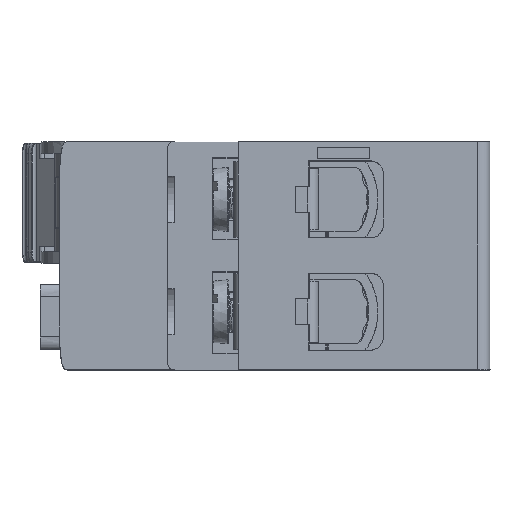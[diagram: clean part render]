
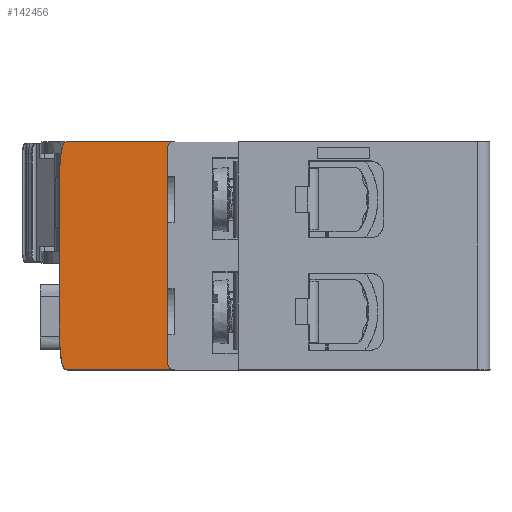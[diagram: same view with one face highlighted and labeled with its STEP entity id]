
A CAD part, top view. The second image highlights one B-rep face of the part: STEP entity #142456.
In plain terms, the highlighted planar face has unit normal (0, 0, 1) as drawn and (0, 1, 0) by its records, which use the part's own axes.
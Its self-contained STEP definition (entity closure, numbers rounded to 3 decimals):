
#712 = CARTESIAN_POINT ( 'NONE',  ( 32.556, 63.25, 16.649 ) ) ;
#713 = ORIENTED_EDGE ( 'NONE', *, *, #97508, .T. ) ;
#2190 = CARTESIAN_POINT ( 'NONE',  ( 34.407, 63.25, 15.992 ) ) ;
#2899 = CARTESIAN_POINT ( 'NONE',  ( 34.5, 63.25, 15.673 ) ) ;
#3503 = CARTESIAN_POINT ( 'NONE',  ( -1., 63.25, 15.673 ) ) ;
#3597 = DIRECTION ( 'NONE',  ( -1., 0., 0. ) ) ;
#4515 = CARTESIAN_POINT ( 'NONE',  ( 26.883, 63.25, 16.872 ) ) ;
#6494 = EDGE_CURVE ( 'NONE', #141234, #96540, #107446, .T. ) ;
#8579 = ORIENTED_EDGE ( 'NONE', *, *, #35804, .T. ) ;
#8681 = DIRECTION ( 'NONE',  ( 1., 0., 0. ) ) ;
#9698 = CARTESIAN_POINT ( 'NONE',  ( -1., 63.25, 15.673 ) ) ;
#10666 = VECTOR ( 'NONE', #99556, 1000. ) ;
#12207 = CARTESIAN_POINT ( 'NONE',  ( 0., 63.25, 0. ) ) ;
#12573 = DIRECTION ( 'NONE',  ( 0., -1., 0. ) ) ;
#13873 = CARTESIAN_POINT ( 'NONE',  ( 29.556, 63.25, 16.863 ) ) ;
#14021 = CARTESIAN_POINT ( 'NONE',  ( -15.5, 63.25, 0. ) ) ;
#14453 = ORIENTED_EDGE ( 'NONE', *, *, #104500, .T. ) ;
#14745 = CIRCLE ( 'NONE', #108992, 1. ) ;
#16034 = DIRECTION ( 'NONE',  ( 1., 0., 0. ) ) ;
#18303 = VERTEX_POINT ( 'NONE', #98606 ) ;
#20198 = EDGE_CURVE ( 'NONE', #66842, #62620, #86502, .T. ) ;
#22661 = CARTESIAN_POINT ( 'NONE',  ( -0.837, 63.25, 16.747 ) ) ;
#23506 = CARTESIAN_POINT ( 'NONE',  ( 32.223, 63.25, 16.686 ) ) ;
#25676 = CARTESIAN_POINT ( 'NONE',  ( 31.558, 63.25, 16.747 ) ) ;
#28925 = CIRCLE ( 'NONE', #40533, 1. ) ;
#33933 = FACE_OUTER_BOUND ( 'NONE', #52192, .T. ) ;
#34404 = CARTESIAN_POINT ( 'NONE',  ( 34.5, 63.25, -1.28 ) ) ;
#35804 = EDGE_CURVE ( 'NONE', #82161, #45584, #132974, .T. ) ;
#40533 = AXIS2_PLACEMENT_3D ( 'NONE', #62484, #119337, #8681 ) ;
#45584 = VERTEX_POINT ( 'NONE', #50773 ) ;
#46995 = CARTESIAN_POINT ( 'NONE',  ( 34.161, 63.25, 16.22 ) ) ;
#47716 = CARTESIAN_POINT ( 'NONE',  ( 28.22, 63.25, 16.871 ) ) ;
#47868 = DIRECTION ( 'NONE',  ( 1., 0., 0. ) ) ;
#48439 = CARTESIAN_POINT ( 'NONE',  ( 26.883, 63.25, 16.872 ) ) ;
#50773 = CARTESIAN_POINT ( 'NONE',  ( 6.617, 63.25, 16.872 ) ) ;
#51245 = CARTESIAN_POINT ( 'NONE',  ( -1., 63.25, -1. ) ) ;
#52192 = EDGE_LOOP ( 'NONE', ( #713, #113018, #130756, #57412, #8579, #135086, #116458, #14453 ) ) ;
#54392 = LINE ( 'NONE', #66175, #10666 ) ;
#54553 = EDGE_CURVE ( 'NONE', #141234, #76934, #14745, .T. ) ;
#55277 = CARTESIAN_POINT ( 'NONE',  ( 6.617, 63.25, 16.872 ) ) ;
#57412 = ORIENTED_EDGE ( 'NONE', *, *, #112804, .T. ) ;
#57757 = VECTOR ( 'NONE', #3597, 1000. ) ;
#58074 = CARTESIAN_POINT ( 'NONE',  ( 34.473, 63.25, 15.84 ) ) ;
#59537 = CARTESIAN_POINT ( 'NONE',  ( 31.225, 63.25, 16.77 ) ) ;
#62484 = CARTESIAN_POINT ( 'NONE',  ( 33.5, 63.25, -1. ) ) ;
#62620 = VERTEX_POINT ( 'NONE', #4515 ) ;
#66175 = CARTESIAN_POINT ( 'NONE',  ( -1., 63.25, -11.48 ) ) ;
#66842 = VERTEX_POINT ( 'NONE', #117924 ) ;
#69822 = CARTESIAN_POINT ( 'NONE',  ( 33.938, 63.25, 16.332 ) ) ;
#76934 = VERTEX_POINT ( 'NONE', #51245 ) ;
#80186 = CARTESIAN_POINT ( 'NONE',  ( 34.014, 63.25, 16.299 ) ) ;
#80915 = LINE ( 'NONE', #138527, #57757 ) ;
#80925 = CARTESIAN_POINT ( 'NONE',  ( 33.215, 63.25, 16.538 ) ) ;
#82161 = VERTEX_POINT ( 'NONE', #9698 ) ;
#82274 = CARTESIAN_POINT ( 'NONE',  ( -0.918, 63.25, 16.21 ) ) ;
#82379 = CARTESIAN_POINT ( 'NONE',  ( 34.487, 63.25, 15.755 ) ) ;
#85816 = PLANE ( 'NONE',  #112551 ) ;
#86502 = B_SPLINE_CURVE_WITH_KNOTS ( 'NONE', 3,
 ( #2899, #82379, #58074, #2190, #124560, #115699, #46995, #80186, #69822, #114972, #90600, #80925, #92082, #712, #23506, #25676, #59537, #13873, #47716, #48439 ),
 .UNSPECIFIED., .F., .F.,
 ( 4, 2, 2, 2, 2, 2, 2, 2, 2, 4 ),
 ( 0.001, 0.001, 0.001, 0.001, 0.002, 0.002, 0.003, 0.004, 0.005, 0.009 ),
 .UNSPECIFIED. ) ;
#90600 = CARTESIAN_POINT ( 'NONE',  ( 33.541, 63.25, 16.463 ) ) ;
#92082 = CARTESIAN_POINT ( 'NONE',  ( 33.051, 63.25, 16.569 ) ) ;
#96146 = VECTOR ( 'NONE', #16034, 1000. ) ;
#96540 = VERTEX_POINT ( 'NONE', #137528 ) ;
#97508 = EDGE_CURVE ( 'NONE', #18303, #96540, #28925, .T. ) ;
#98606 = CARTESIAN_POINT ( 'NONE',  ( 34.5, 63.25, -1. ) ) ;
#99556 = DIRECTION ( 'NONE',  ( 0., 0., 1. ) ) ;
#104500 = EDGE_CURVE ( 'NONE', #66842, #18303, #126608, .T. ) ;
#107446 = LINE ( 'NONE', #142114, #96146 ) ;
#108827 = CARTESIAN_POINT ( 'NONE',  ( 0., 63.25, -1. ) ) ;
#108992 = AXIS2_PLACEMENT_3D ( 'NONE', #108827, #119156, #118454 ) ;
#112551 = AXIS2_PLACEMENT_3D ( 'NONE', #14021, #12573, #47868 ) ;
#112689 = CARTESIAN_POINT ( 'NONE',  ( 2.489, 63.25, 16.855 ) ) ;
#112804 = EDGE_CURVE ( 'NONE', #76934, #82161, #54392, .T. ) ;
#112890 = EDGE_CURVE ( 'NONE', #62620, #45584, #80915, .T. ) ;
#113018 = ORIENTED_EDGE ( 'NONE', *, *, #6494, .F. ) ;
#113993 = VECTOR ( 'NONE', #135526, 1000. ) ;
#114972 = CARTESIAN_POINT ( 'NONE',  ( 33.702, 63.25, 16.42 ) ) ;
#115699 = CARTESIAN_POINT ( 'NONE',  ( 34.233, 63.25, 16.174 ) ) ;
#116458 = ORIENTED_EDGE ( 'NONE', *, *, #20198, .F. ) ;
#117924 = CARTESIAN_POINT ( 'NONE',  ( 34.5, 63.25, 15.673 ) ) ;
#118454 = DIRECTION ( 'NONE',  ( 1., 0., 0. ) ) ;
#119156 = DIRECTION ( 'NONE',  ( 0., -1., 0. ) ) ;
#119337 = DIRECTION ( 'NONE',  ( 0., -1., 0. ) ) ;
#121723 = CARTESIAN_POINT ( 'NONE',  ( 4.841, 63.25, 16.871 ) ) ;
#124560 = CARTESIAN_POINT ( 'NONE',  ( 34.356, 63.25, 16.061 ) ) ;
#126608 = LINE ( 'NONE', #34404, #113993 ) ;
#130756 = ORIENTED_EDGE ( 'NONE', *, *, #54553, .T. ) ;
#132974 = B_SPLINE_CURVE_WITH_KNOTS ( 'NONE', 5,
 ( #3503, #82274, #22661, #112689, #121723, #55277 ),
 .UNSPECIFIED., .F., .F.,
 ( 6, 6 ),
 ( 0.112, 7.874 ),
 .UNSPECIFIED. ) ;
#135086 = ORIENTED_EDGE ( 'NONE', *, *, #112890, .F. ) ;
#135526 = DIRECTION ( 'NONE',  ( 0., 0., -1. ) ) ;
#137528 = CARTESIAN_POINT ( 'NONE',  ( 33.5, 63.25, 0. ) ) ;
#138527 = CARTESIAN_POINT ( 'NONE',  ( -55.5, 63.25, 16.872 ) ) ;
#141234 = VERTEX_POINT ( 'NONE', #12207 ) ;
#142114 = CARTESIAN_POINT ( 'NONE',  ( -15.5, 63.25, 0. ) ) ;
#142456 = ADVANCED_FACE ( 'NONE', ( #33933 ), #85816, .F. ) ;
